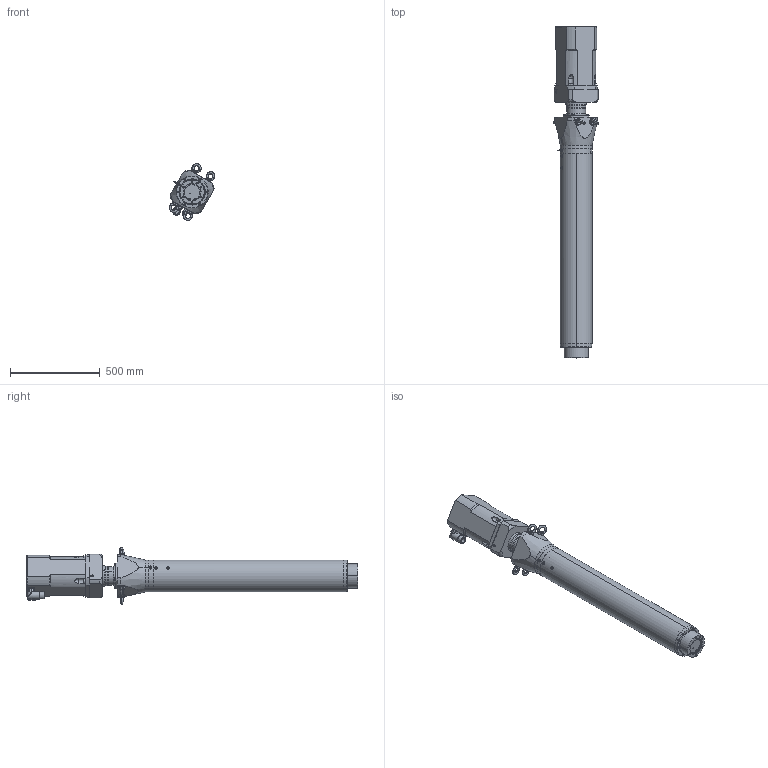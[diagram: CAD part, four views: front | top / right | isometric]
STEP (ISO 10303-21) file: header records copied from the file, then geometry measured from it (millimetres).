
FILE_DESCRIPTION (( 'STEP AP214' ), '1' );
FILE_NAME ('RLWIK060D-075-025HG0.STEP', '2023-04-06T05:28:13', ( '' ), ( '' ), 'SwSTEP 2.0', 'SolidWorks 2021', '' );
FILE_SCHEMA (( 'AUTOMOTIVE_DESIGN' ));
Length unit declared in the file: millimetre
Products named in the file (1): RLWIK060D-075-025HG0
Bounding box: 255.25 x 1849 x 316.86 mm (x, y, z)
Volume: 38027383.5 mm3; surface area: 2892428.7 mm2
Topology: 32 solids, 32 shells, 1167 faces, 2752 edges, 1624 vertices
Faces by surface type: cylinder 448, plane 341, cone 218, torus 84, bspline 74, sphere 2
Entity records: 51623 total; most frequent: CARTESIAN_POINT 12045, DIRECTION 5792, ORIENTED_EDGE 5216, EDGE_CURVE 2608, AXIS2_PLACEMENT_3D 2340, VERTEX_POINT 1624, EDGE_LOOP 1372, CIRCLE 1246
